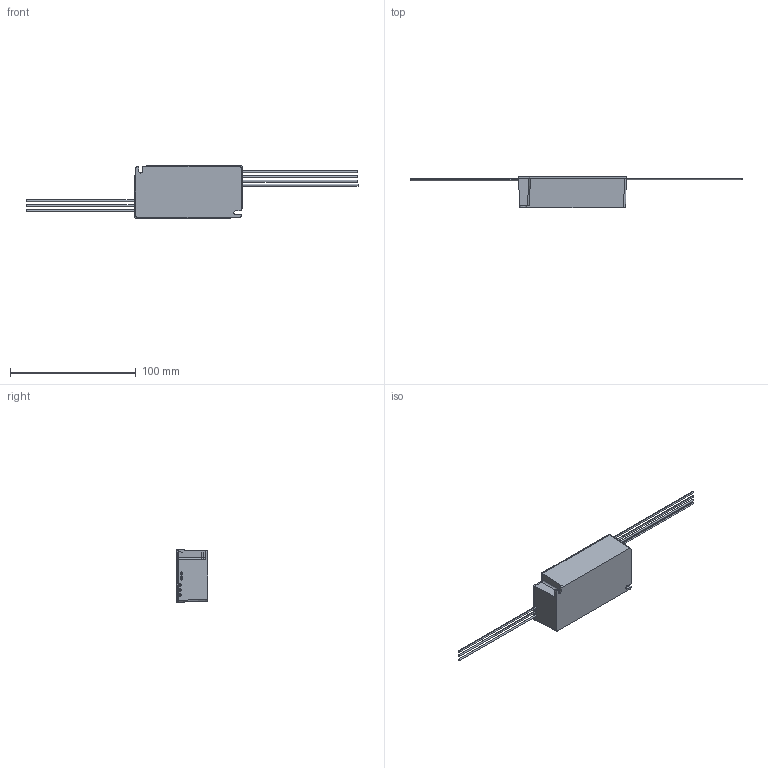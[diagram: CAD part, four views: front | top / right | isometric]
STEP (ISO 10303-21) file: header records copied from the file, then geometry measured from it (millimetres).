
FILE_DESCRIPTION((''),'2;1');
FILE_NAME('ASM0010_ASM','2026-01-04T16:25:25',('Administrator'),(''),'CREO PARAMETRIC BY PTC INC, 2020053','CREO PARAMETRIC BY PTC INC, 2020053','');
FILE_SCHEMA(('CONFIG_CONTROL_DESIGN','SHAPE_APPEARANCE_LAYERS_GROUPS'));
Length unit declared in the file: inch
Products named in the file (396): BOTTOM_9_1_1_1_1; DAP30_ASM_2_ASM_1_ASM_1_ASM_1_1_ASM; BLK-XIAN_3_2_1_1; WHI-XIAN_1_2_1_1; PUR-XIAN_2_2_1_1; PNK-XIAN_1_2_1_1; RED-XIAN_1_2_1_1; BLU-XIAN_1_2_1_1; DAP30-0620_ASM_1_ASM_1_ASM_1_1_ASM; TOP-1_1_1_1; OPEN_CASCADE_STEP_TRANSLATOR-_3; BOARD-76_1_ASM_1_ASM_1_1_ASM; HDR2_0-M-LI-1P-9198_1_2_1_1_1_1; HDR2_0-M-LI-1P-9198_1_2_2_1_1_1; HDR2_0-M-LI-1P-9198_1_2_ASM_1_1_ASM; LOGO_0_1-11240_1_2_1_1_1_1; LOGO_0_1-11240_1_2_2_1_1_1; LOGO_0_1-11240_1_2_3_1_1_1; LOGO_0_1-11240_1_2_4_1_1_1; LOGO_0_1-11240_1_2_5_1_1_1; LOGO_0_1-11240_1_2_6_1_1_1; LOGO_0_1-11240_1_2_7_1_1_1; LOGO_0_1-11240_1_2_8_1_1_1; LOGO_0_1-11240_1_2_9_1_1_1; LOGO_0_1-11240_1_2_10_1_1_1; LOGO_0_1-11240_1_2_11_1_1_1; LOGO_0_1-11240_1_2_12_1_1_1; LOGO_0_1-11240_1_2_13_1_1_1; LOGO_0_1-11240_1_2_14_1_1_1; LOGO_0_1-11240_1_2_ASM_1_ASM__1_ASM; HDR2_0-M-LI-6P_1_ASM_1_ASM_1_1_ASM; P8_1_ASM_1_ASM_1_1_ASM; SOD-123-14374_1_1_1_1; LOGO_-21816_1_2_10001_1_1_1; LOGO_-21816_1_2_20001_1_1_1; LOGO_-21816_1_2_30001_1_1_1; LOGO_-21816_1_2_40001_1_1_1; LOGO_-21816_1_2_50001_1_1_1; LOGO_-21816_1_2_60001_1_1_1; LOGO_-21816_1_2_70001_1_1_1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
Assembly tree (422 placements, depth 11):
  ASM0010_ASM
    DAP30-0620_250416_ASM_1_1_ASM
      DAP30-0620_221026_ASM_1_ASM_1_1_ASM
        DAP30-0620_ASM_1_ASM_1_ASM_1_1_ASM
          DAP30_ASM_2_ASM_1_ASM_1_ASM_1_1_ASM
            BOTTOM_9_1_1_1_1
          BLK-XIAN_3_2_1_1
          WHI-XIAN_1_2_1_1
          PUR-XIAN_2_2_1_1
          PNK-XIAN_1_2_1_1
          RED-XIAN_1_2_1_1
          BLU-XIAN_1_2_1_1
        TOP-1_1_1_1
        ASM0008_ASM_1_ASM_1_1_ASM
          PCB_1_ASM_5_ASM_1_1_ASM
            BOARD-76_1_ASM_1_ASM_1_1_ASM
              OPEN_CASCADE_STEP_TRANSLATOR-_3
            P8_1_ASM_1_ASM_1_1_ASM
              HDR2_0-M-LI-6P_1_ASM_1_ASM_1_1_ASM
                HDR2_0-M-LI-1P-9198_1_2_ASM_1_1_ASM  x6
                  HDR2_0-M-LI-1P-9198_1_2_1_1_1_1
                  HDR2_0-M-LI-1P-9198_1_2_2_1_1_1
                LOGO_0_1-11240_1_2_ASM_1_ASM__1_ASM
                  LOGO_0_1-11240_1_2_1_1_1_1
                  LOGO_0_1-11240_1_2_2_1_1_1
                  LOGO_0_1-11240_1_2_3_1_1_1
                  LOGO_0_1-11240_1_2_4_1_1_1
                  LOGO_0_1-11240_1_2_5_1_1_1
                  LOGO_0_1-11240_1_2_6_1_1_1
                  LOGO_0_1-11240_1_2_7_1_1_1
                  LOGO_0_1-11240_1_2_8_1_1_1
                  LOGO_0_1-11240_1_2_9_1_1_1
                  LOGO_0_1-11240_1_2_10_1_1_1
                  LOGO_0_1-11240_1_2_11_1_1_1
                  LOGO_0_1-11240_1_2_12_1_1_1
                  LOGO_0_1-11240_1_2_13_1_1_1
                  LOGO_0_1-11240_1_2_14_1_1_1
            ZD3_1_ASM_1_ASM_1_1_ASM
              SOD-123-14360_1_ASM_1_ASM_1_1_ASM
                SOD-123-14374_1_1_1_1
                LOGO_-21816_1_20001_ASM_1_ASM_2_ASM
                  LOGO_-21816_1_2_10001_1_1_1
                  LOGO_-21816_1_2_20001_1_1_1
                  LOGO_-21816_1_2_30001_1_1_1
                  LOGO_-21816_1_2_40001_1_1_1
                  LOGO_-21816_1_2_50001_1_1_1
                  LOGO_-21816_1_2_60001_1_1_1
                  LOGO_-21816_1_2_70001_1_1_1
                  LOGO_-21816_1_2_80001_1_1_1
                  LOGO_-21816_1_2_90001_1_1_1
                  LOGO_-21816_1_2_100001_1_1_1
                  LOGO_-21816_1_2_110001_1_1_1
                  LOGO_-21816_1_2_120001_1_1_1
                  LOGO_-21816_1_2_130001_1_1_1
                  LOGO_-21816_1_2_140001_1_1_1
            Q16_1_ASM_1_ASM_1_1_ASM
              3D-SOT-223_1_1_1_1
            L4_1_ASM_1_ASM_1_1_ASM
              CD43-27448_1_ASM_1_ASM_1_1_ASM
                LOGO_-27462_1_2_ASM_1_ASM_1_1_ASM
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Bounding box: 263.69 x 25.03 x 41.64 mm (x, y, z)
Volume: 22812.2 mm3; surface area: 45933.8 mm2
Topology: 95 solids, 315 shells, 5124 faces, 13171 edges, 8782 vertices
Faces by surface type: plane 3162, cylinder 1134, extrusion 317, torus 272, bspline 167, sphere 56, cone 16
Entity records: 239919 total; most frequent: CARTESIAN_POINT 93184, ORIENTED_EDGE 19710, DIRECTION 19411, PRESENTATION_STYLE_ASSIGNMENT 11208, EDGE_CURVE 9991, STYLED_ITEM 9454, CURVE_STYLE 8683, VERTEX_POINT 6796
